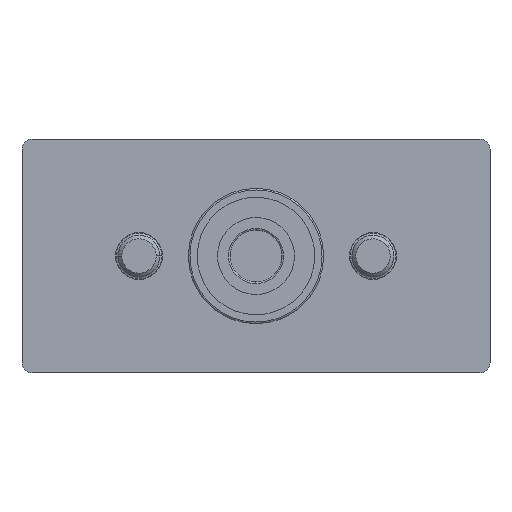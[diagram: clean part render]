
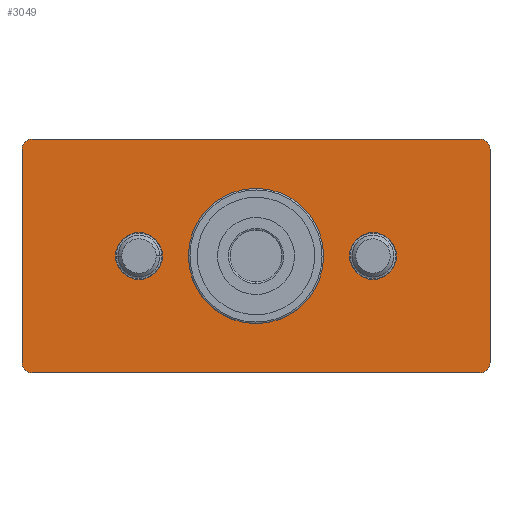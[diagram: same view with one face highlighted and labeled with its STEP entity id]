
A CAD part, front view. The second image highlights one B-rep face of the part: STEP entity #3049.
In plain terms, the highlighted planar face has unit normal (0, -1, 0).
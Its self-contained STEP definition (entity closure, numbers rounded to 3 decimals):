
#13 = CARTESIAN_POINT ( 'NONE',  ( 646.421, 885.153, 1277.986 ) ) ;
#21 = VERTEX_POINT ( 'NONE', #3165 ) ;
#55 = VERTEX_POINT ( 'NONE', #820 ) ;
#149 = EDGE_CURVE ( 'NONE', #237, #55, #1537, .T. ) ;
#172 = DIRECTION ( 'NONE',  ( 0., -1., 0. ) ) ;
#237 = VERTEX_POINT ( 'NONE', #3548 ) ;
#264 = VERTEX_POINT ( 'NONE', #274 ) ;
#266 = ORIENTED_EDGE ( 'NONE', *, *, #2997, .F. ) ;
#274 = CARTESIAN_POINT ( 'NONE',  ( 711.921, 885.153, 1302.986 ) ) ;
#278 = CARTESIAN_POINT ( 'NONE',  ( 734.421, 885.153, 1318.986 ) ) ;
#311 = DIRECTION ( 'NONE',  ( 0., 0., 1. ) ) ;
#401 = DIRECTION ( 'NONE',  ( 0., 0., 1. ) ) ;
#430 = CARTESIAN_POINT ( 'NONE',  ( 689.421, 885.153, 1298.486 ) ) ;
#445 = EDGE_LOOP ( 'NONE', ( #559, #1239 ) ) ;
#447 = EDGE_CURVE ( 'NONE', #21, #1567, #2520, .T. ) ;
#453 = CARTESIAN_POINT ( 'NONE',  ( 732.421, 885.153, 1318.986 ) ) ;
#454 = DIRECTION ( 'NONE',  ( 0., 0., 1. ) ) ;
#462 = EDGE_LOOP ( 'NONE', ( #567, #2753 ) ) ;
#484 = AXIS2_PLACEMENT_3D ( 'NONE', #453, #4398, #4352 ) ;
#527 = CIRCLE ( 'NONE', #2986, 4.5 ) ;
#530 = EDGE_LOOP ( 'NONE', ( #4226, #1881 ) ) ;
#559 = ORIENTED_EDGE ( 'NONE', *, *, #3586, .F. ) ;
#567 = ORIENTED_EDGE ( 'NONE', *, *, #149, .T. ) ;
#615 = EDGE_CURVE ( 'NONE', #4174, #264, #527, .T. ) ;
#649 = VERTEX_POINT ( 'NONE', #4432 ) ;
#652 = ORIENTED_EDGE ( 'NONE', *, *, #2902, .T. ) ;
#698 = VECTOR ( 'NONE', #3221, 1000. ) ;
#722 = DIRECTION ( 'NONE',  ( 0., 1., 0. ) ) ;
#757 = DIRECTION ( 'NONE',  ( 0., 0., 1. ) ) ;
#773 = VECTOR ( 'NONE', #311, 1000. ) ;
#792 = AXIS2_PLACEMENT_3D ( 'NONE', #4677, #3976, #757 ) ;
#797 = DIRECTION ( 'NONE',  ( 0., 0., -1. ) ) ;
#801 = LINE ( 'NONE', #4324, #698 ) ;
#820 = CARTESIAN_POINT ( 'NONE',  ( 666.921, 885.153, 1293.986 ) ) ;
#827 = CARTESIAN_POINT ( 'NONE',  ( 666.921, 885.153, 1298.486 ) ) ;
#865 = DIRECTION ( 'NONE',  ( 1., 0., 0. ) ) ;
#894 = ORIENTED_EDGE ( 'NONE', *, *, #2754, .T. ) ;
#895 = DIRECTION ( 'NONE',  ( -1., 0., 0. ) ) ;
#902 = EDGE_CURVE ( 'NONE', #4220, #1404, #3843, .T. ) ;
#972 = ORIENTED_EDGE ( 'NONE', *, *, #447, .T. ) ;
#1025 = VERTEX_POINT ( 'NONE', #3698 ) ;
#1121 = ORIENTED_EDGE ( 'NONE', *, *, #902, .T. ) ;
#1125 = DIRECTION ( 'NONE',  ( 0., 1., 0. ) ) ;
#1154 = VECTOR ( 'NONE', #865, 1000. ) ;
#1199 = ORIENTED_EDGE ( 'NONE', *, *, #2762, .F. ) ;
#1226 = DIRECTION ( 'NONE',  ( 0., 0., 1. ) ) ;
#1239 = ORIENTED_EDGE ( 'NONE', *, *, #3665, .F. ) ;
#1358 = EDGE_LOOP ( 'NONE', ( #266, #972, #1199, #652, #1906, #1121, #3628, #894 ) ) ;
#1400 = CARTESIAN_POINT ( 'NONE',  ( 689.421, 885.153, 1298.486 ) ) ;
#1404 = VERTEX_POINT ( 'NONE', #3961 ) ;
#1411 = LINE ( 'NONE', #1445, #773 ) ;
#1445 = CARTESIAN_POINT ( 'NONE',  ( 644.421, 885.153, 1275.986 ) ) ;
#1471 = CARTESIAN_POINT ( 'NONE',  ( 711.921, 885.153, 1298.486 ) ) ;
#1515 = CIRCLE ( 'NONE', #4633, 2. ) ;
#1525 = VERTEX_POINT ( 'NONE', #4532 ) ;
#1537 = CIRCLE ( 'NONE', #4192, 4.5 ) ;
#1550 = CARTESIAN_POINT ( 'NONE',  ( 711.921, 885.153, 1293.986 ) ) ;
#1555 = FACE_BOUND ( 'NONE', #462, .T. ) ;
#1567 = VERTEX_POINT ( 'NONE', #2094 ) ;
#1576 = AXIS2_PLACEMENT_3D ( 'NONE', #1400, #4319, #1789 ) ;
#1648 = FACE_BOUND ( 'NONE', #530, .T. ) ;
#1674 = VECTOR ( 'NONE', #895, 1000. ) ;
#1691 = CARTESIAN_POINT ( 'NONE',  ( 646.421, 885.153, 1320.986 ) ) ;
#1693 = PLANE ( 'NONE',  #1730 ) ;
#1697 = VERTEX_POINT ( 'NONE', #4682 ) ;
#1730 = AXIS2_PLACEMENT_3D ( 'NONE', #3637, #2504, #1733 ) ;
#1733 = DIRECTION ( 'NONE',  ( 0., 0., 1. ) ) ;
#1789 = DIRECTION ( 'NONE',  ( 0., 0., -1. ) ) ;
#1841 = CARTESIAN_POINT ( 'NONE',  ( 666.921, 885.153, 1298.486 ) ) ;
#1881 = ORIENTED_EDGE ( 'NONE', *, *, #615, .T. ) ;
#1906 = ORIENTED_EDGE ( 'NONE', *, *, #2311, .F. ) ;
#1961 = EDGE_CURVE ( 'NONE', #264, #4174, #2968, .T. ) ;
#2094 = CARTESIAN_POINT ( 'NONE',  ( 734.421, 885.153, 1277.986 ) ) ;
#2226 = CARTESIAN_POINT ( 'NONE',  ( 646.421, 885.153, 1275.986 ) ) ;
#2260 = FACE_BOUND ( 'NONE', #445, .T. ) ;
#2311 = EDGE_CURVE ( 'NONE', #4220, #649, #3363, .T. ) ;
#2324 = DIRECTION ( 'NONE',  ( 0., -1., 0. ) ) ;
#2325 = FACE_OUTER_BOUND ( 'NONE', #1358, .T. ) ;
#2341 = CARTESIAN_POINT ( 'NONE',  ( 734.421, 885.153, 1275.986 ) ) ;
#2395 = AXIS2_PLACEMENT_3D ( 'NONE', #430, #3725, #797 ) ;
#2411 = AXIS2_PLACEMENT_3D ( 'NONE', #2729, #172, #3013 ) ;
#2504 = DIRECTION ( 'NONE',  ( 0., 1., 0. ) ) ;
#2520 = CIRCLE ( 'NONE', #4289, 2. ) ;
#2725 = CIRCLE ( 'NONE', #484, 2. ) ;
#2729 = CARTESIAN_POINT ( 'NONE',  ( 646.421, 885.153, 1318.986 ) ) ;
#2753 = ORIENTED_EDGE ( 'NONE', *, *, #3401, .T. ) ;
#2754 = EDGE_CURVE ( 'NONE', #1697, #3705, #1515, .T. ) ;
#2762 = EDGE_CURVE ( 'NONE', #2790, #1567, #801, .T. ) ;
#2778 = CIRCLE ( 'NONE', #1576, 13. ) ;
#2787 = AXIS2_PLACEMENT_3D ( 'NONE', #827, #3686, #454 ) ;
#2790 = VERTEX_POINT ( 'NONE', #278 ) ;
#2842 = DIRECTION ( 'NONE',  ( 0., 0., 1. ) ) ;
#2878 = DIRECTION ( 'NONE',  ( 0., -1., 0. ) ) ;
#2902 = EDGE_CURVE ( 'NONE', #2790, #649, #2725, .T. ) ;
#2968 = CIRCLE ( 'NONE', #792, 4.5 ) ;
#2986 = AXIS2_PLACEMENT_3D ( 'NONE', #1471, #1125, #3613 ) ;
#2997 = EDGE_CURVE ( 'NONE', #21, #3705, #3094, .T. ) ;
#3013 = DIRECTION ( 'NONE',  ( 0., 0., 1. ) ) ;
#3041 = CARTESIAN_POINT ( 'NONE',  ( 644.421, 885.153, 1320.986 ) ) ;
#3049 = ADVANCED_FACE ( 'NONE', ( #2260, #1555, #1648, #2325 ), #1693, .F. ) ;
#3094 = LINE ( 'NONE', #2341, #1674 ) ;
#3165 = CARTESIAN_POINT ( 'NONE',  ( 732.421, 885.153, 1275.986 ) ) ;
#3221 = DIRECTION ( 'NONE',  ( 0., 0., -1. ) ) ;
#3363 = LINE ( 'NONE', #3041, #1154 ) ;
#3401 = EDGE_CURVE ( 'NONE', #55, #237, #3840, .T. ) ;
#3491 = CIRCLE ( 'NONE', #2395, 13. ) ;
#3548 = CARTESIAN_POINT ( 'NONE',  ( 666.921, 885.153, 1302.986 ) ) ;
#3586 = EDGE_CURVE ( 'NONE', #1525, #1025, #2778, .T. ) ;
#3613 = DIRECTION ( 'NONE',  ( 0., 0., 1. ) ) ;
#3628 = ORIENTED_EDGE ( 'NONE', *, *, #4121, .F. ) ;
#3637 = CARTESIAN_POINT ( 'NONE',  ( 689.421, 885.153, 1298.486 ) ) ;
#3665 = EDGE_CURVE ( 'NONE', #1025, #1525, #3491, .T. ) ;
#3686 = DIRECTION ( 'NONE',  ( 0., 1., 0. ) ) ;
#3698 = CARTESIAN_POINT ( 'NONE',  ( 689.421, 885.153, 1311.486 ) ) ;
#3705 = VERTEX_POINT ( 'NONE', #2226 ) ;
#3725 = DIRECTION ( 'NONE',  ( 0., -1., 0. ) ) ;
#3840 = CIRCLE ( 'NONE', #2787, 4.5 ) ;
#3843 = CIRCLE ( 'NONE', #2411, 2. ) ;
#3961 = CARTESIAN_POINT ( 'NONE',  ( 644.421, 885.153, 1318.986 ) ) ;
#3976 = DIRECTION ( 'NONE',  ( 0., 1., 0. ) ) ;
#4121 = EDGE_CURVE ( 'NONE', #1697, #1404, #1411, .T. ) ;
#4157 = CARTESIAN_POINT ( 'NONE',  ( 732.421, 885.153, 1277.986 ) ) ;
#4174 = VERTEX_POINT ( 'NONE', #1550 ) ;
#4192 = AXIS2_PLACEMENT_3D ( 'NONE', #1841, #722, #2842 ) ;
#4220 = VERTEX_POINT ( 'NONE', #1691 ) ;
#4226 = ORIENTED_EDGE ( 'NONE', *, *, #1961, .T. ) ;
#4289 = AXIS2_PLACEMENT_3D ( 'NONE', #4157, #2324, #1226 ) ;
#4319 = DIRECTION ( 'NONE',  ( 0., -1., 0. ) ) ;
#4324 = CARTESIAN_POINT ( 'NONE',  ( 734.421, 885.153, 1320.986 ) ) ;
#4352 = DIRECTION ( 'NONE',  ( 0., 0., 1. ) ) ;
#4398 = DIRECTION ( 'NONE',  ( 0., -1., 0. ) ) ;
#4432 = CARTESIAN_POINT ( 'NONE',  ( 732.421, 885.153, 1320.986 ) ) ;
#4532 = CARTESIAN_POINT ( 'NONE',  ( 689.421, 885.153, 1285.486 ) ) ;
#4633 = AXIS2_PLACEMENT_3D ( 'NONE', #13, #2878, #401 ) ;
#4677 = CARTESIAN_POINT ( 'NONE',  ( 711.921, 885.153, 1298.486 ) ) ;
#4682 = CARTESIAN_POINT ( 'NONE',  ( 644.421, 885.153, 1277.986 ) ) ;
